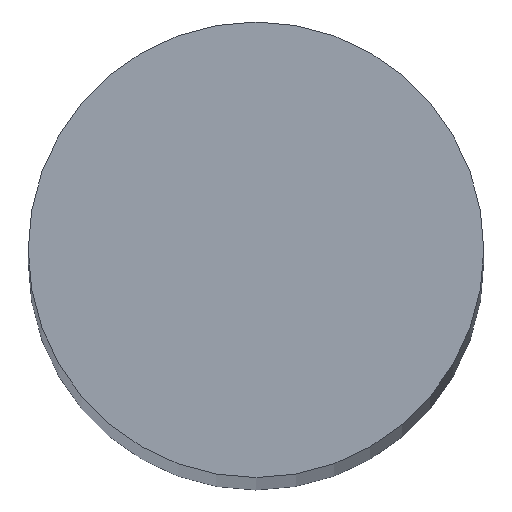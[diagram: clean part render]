
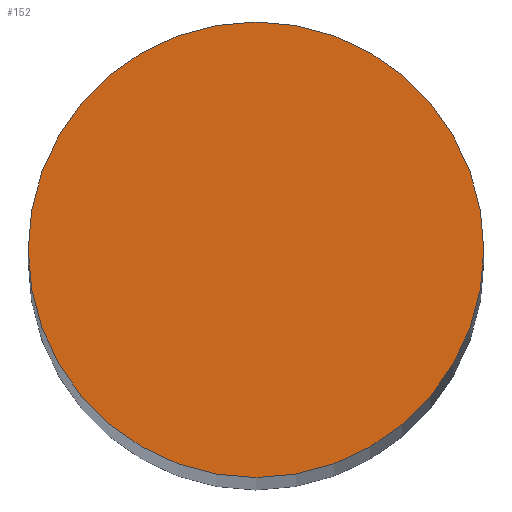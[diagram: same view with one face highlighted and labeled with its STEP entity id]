
A CAD part, top view. The second image highlights one B-rep face of the part: STEP entity #152.
In plain terms, the highlighted planar face has unit normal (0, 0, 1).
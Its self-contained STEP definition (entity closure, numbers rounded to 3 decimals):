
#43 = DIRECTION ( 'NONE',  ( 0., 0., 1. ) ) ;
#47 = CIRCLE ( 'NONE', #155, 8. ) ;
#64 = CARTESIAN_POINT ( 'NONE',  ( 0., 0., 250. ) ) ;
#66 = DIRECTION ( 'NONE',  ( 1., 0., 0. ) ) ;
#105 = EDGE_CURVE ( 'NONE', #323, #323, #47, .T. ) ;
#113 = FACE_OUTER_BOUND ( 'NONE', #193, .T. ) ;
#131 = AXIS2_PLACEMENT_3D ( 'NONE', #64, #43, #250 ) ;
#152 = ADVANCED_FACE ( 'NONE', ( #113 ), #331, .T. ) ;
#155 = AXIS2_PLACEMENT_3D ( 'NONE', #198, #329, #66 ) ;
#193 = EDGE_LOOP ( 'NONE', ( #205 ) ) ;
#198 = CARTESIAN_POINT ( 'NONE',  ( 0., 0., 250. ) ) ;
#205 = ORIENTED_EDGE ( 'NONE', *, *, #105, .T. ) ;
#212 = CARTESIAN_POINT ( 'NONE',  ( 8., 0., 250. ) ) ;
#250 = DIRECTION ( 'NONE',  ( 1., 0., 0. ) ) ;
#323 = VERTEX_POINT ( 'NONE', #212 ) ;
#329 = DIRECTION ( 'NONE',  ( 0., 0., 1. ) ) ;
#331 = PLANE ( 'NONE',  #131 ) ;
